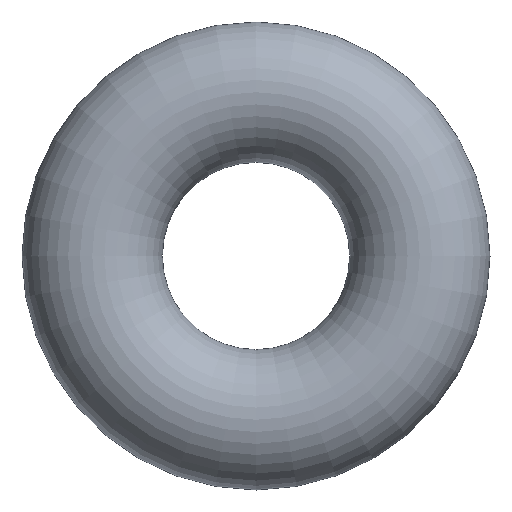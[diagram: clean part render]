
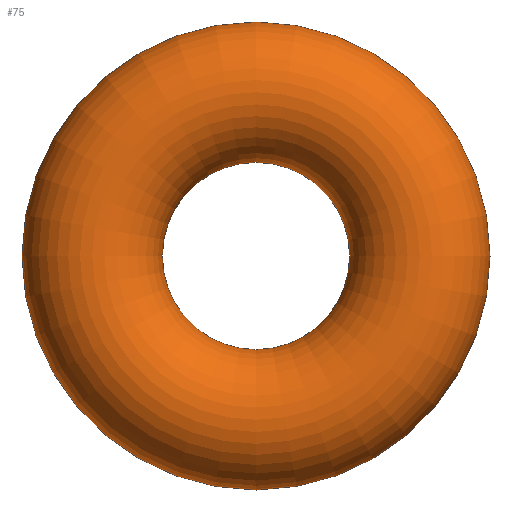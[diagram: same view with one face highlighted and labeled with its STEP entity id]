
A CAD part, front view. The second image highlights one B-rep face of the part: STEP entity #75.
In plain terms, the highlighted toroidal (fillet/blend) face has major radius 3.5 mm and minor radius 1.5 mm.
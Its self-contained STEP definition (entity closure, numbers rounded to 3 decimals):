
#75 = ADVANCED_FACE( '', ( #77 ), #78, .T. );
#77 = FACE_BOUND( '', #79, .T. );
#78 = TOROIDAL_SURFACE( '', #80, 3.5, 1.5 );
#79 = VERTEX_LOOP( '', #81 );
#80 = AXIS2_PLACEMENT_3D( '', #82, #83, #84 );
#81 = VERTEX_POINT( '', #85 );
#82 = CARTESIAN_POINT( '', ( 0., 0., 0. ) );
#83 = DIRECTION( '', ( 0., -1., 0. ) );
#84 = DIRECTION( '', ( 0., 0., -1. ) );
#85 = CARTESIAN_POINT( '', ( 0., 0., -5. ) );
